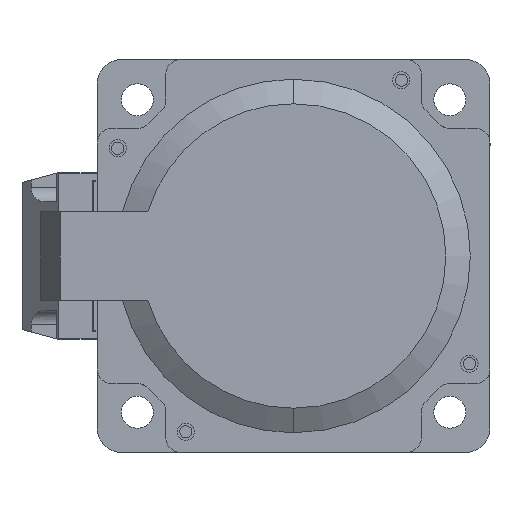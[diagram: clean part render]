
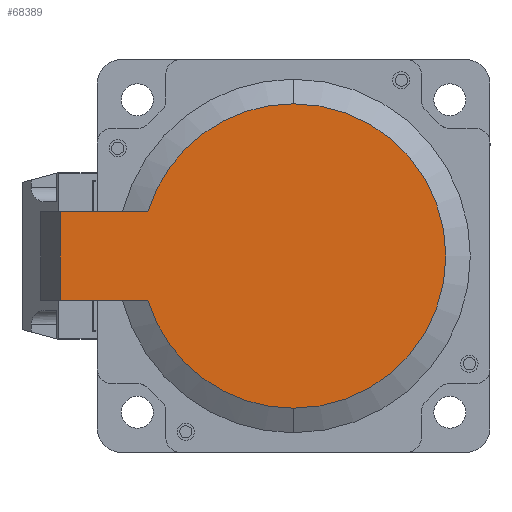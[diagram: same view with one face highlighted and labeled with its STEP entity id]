
A CAD part, left-side view. The second image highlights one B-rep face of the part: STEP entity #68389.
In plain terms, the highlighted planar face has unit normal (-1, 0, 0).
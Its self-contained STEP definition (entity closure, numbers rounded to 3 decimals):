
#814 = PLANE ( 'NONE',  #19556 ) ;
#2234 = ORIENTED_EDGE ( 'NONE', *, *, #37389, .F. ) ;
#2391 = CARTESIAN_POINT ( 'NONE',  ( 1063.931, 47.549, -9. ) ) ;
#2415 = AXIS2_PLACEMENT_3D ( 'NONE', #66256, #27387, #72749 ) ;
#2602 = AXIS2_PLACEMENT_3D ( 'NONE', #7819, #8676, #9770 ) ;
#4113 = CIRCLE ( 'NONE', #2602, 31. ) ;
#4387 = ORIENTED_EDGE ( 'NONE', *, *, #59607, .T. ) ;
#4547 = ORIENTED_EDGE ( 'NONE', *, *, #44367, .T. ) ;
#7819 = CARTESIAN_POINT ( 'NONE',  ( 1063.931, 0., 0. ) ) ;
#8676 = DIRECTION ( 'NONE',  ( -1., 0., 0. ) ) ;
#8720 = CARTESIAN_POINT ( 'NONE',  ( 1063.931, 0., 31. ) ) ;
#8850 = CIRCLE ( 'NONE', #2415, 31. ) ;
#9601 = ORIENTED_EDGE ( 'NONE', *, *, #54187, .T. ) ;
#9770 = DIRECTION ( 'NONE',  ( 0., 0., -1. ) ) ;
#10334 = CARTESIAN_POINT ( 'NONE',  ( 1063.931, 47.549, -9. ) ) ;
#10445 = VERTEX_POINT ( 'NONE', #8720 ) ;
#12189 = CARTESIAN_POINT ( 'NONE',  ( 1063.931, 29.665, 9. ) ) ;
#13537 = DIRECTION ( 'NONE',  ( 0., 0., 1. ) ) ;
#13879 = DIRECTION ( 'NONE',  ( 0., 0., -1. ) ) ;
#16889 = DIRECTION ( 'NONE',  ( 0., 1., 0. ) ) ;
#17423 = VECTOR ( 'NONE', #74322, 1000. ) ;
#19556 = AXIS2_PLACEMENT_3D ( 'NONE', #72842, #46227, #13879 ) ;
#21506 = LINE ( 'NONE', #35478, #17423 ) ;
#22087 = VERTEX_POINT ( 'NONE', #63378 ) ;
#25817 = ORIENTED_EDGE ( 'NONE', *, *, #75018, .F. ) ;
#26806 = VECTOR ( 'NONE', #16889, 1000. ) ;
#27387 = DIRECTION ( 'NONE',  ( -1., 0., 0. ) ) ;
#30928 = VERTEX_POINT ( 'NONE', #72312 ) ;
#34407 = EDGE_LOOP ( 'NONE', ( #25817, #81016, #4547, #4387, #9601, #2234 ) ) ;
#34903 = FACE_OUTER_BOUND ( 'NONE', #34407, .T. ) ;
#35478 = CARTESIAN_POINT ( 'NONE',  ( 1063.931, 47.549, 9. ) ) ;
#37389 = EDGE_CURVE ( 'NONE', #45867, #68776, #49138, .T. ) ;
#41273 = AXIS2_PLACEMENT_3D ( 'NONE', #69791, #70360, #76280 ) ;
#42548 = CIRCLE ( 'NONE', #41273, 31. ) ;
#44367 = EDGE_CURVE ( 'NONE', #30928, #10445, #8850, .T. ) ;
#45186 = VERTEX_POINT ( 'NONE', #12189 ) ;
#45867 = VERTEX_POINT ( 'NONE', #2391 ) ;
#46227 = DIRECTION ( 'NONE',  ( -1., 0., 0. ) ) ;
#49138 = LINE ( 'NONE', #71672, #50185 ) ;
#50185 = VECTOR ( 'NONE', #13537, 1000. ) ;
#54187 = EDGE_CURVE ( 'NONE', #45186, #68776, #21506, .T. ) ;
#59607 = EDGE_CURVE ( 'NONE', #10445, #45186, #4113, .T. ) ;
#60337 = EDGE_CURVE ( 'NONE', #22087, #30928, #42548, .T. ) ;
#63378 = CARTESIAN_POINT ( 'NONE',  ( 1063.931, 29.665, -9. ) ) ;
#66256 = CARTESIAN_POINT ( 'NONE',  ( 1063.931, 0., 0. ) ) ;
#68389 = ADVANCED_FACE ( 'NONE', ( #34903 ), #814, .T. ) ;
#68412 = LINE ( 'NONE', #10334, #26806 ) ;
#68776 = VERTEX_POINT ( 'NONE', #82711 ) ;
#69791 = CARTESIAN_POINT ( 'NONE',  ( 1063.931, 0., 0. ) ) ;
#70360 = DIRECTION ( 'NONE',  ( -1., 0., 0. ) ) ;
#71672 = CARTESIAN_POINT ( 'NONE',  ( 1063.931, 47.549, -9. ) ) ;
#72312 = CARTESIAN_POINT ( 'NONE',  ( 1063.931, 0., -31. ) ) ;
#72749 = DIRECTION ( 'NONE',  ( 0., 0., -1. ) ) ;
#72842 = CARTESIAN_POINT ( 'NONE',  ( 1063.931, 0., -31. ) ) ;
#74322 = DIRECTION ( 'NONE',  ( 0., 1., 0. ) ) ;
#75018 = EDGE_CURVE ( 'NONE', #22087, #45867, #68412, .T. ) ;
#76280 = DIRECTION ( 'NONE',  ( 0., 0., -1. ) ) ;
#81016 = ORIENTED_EDGE ( 'NONE', *, *, #60337, .T. ) ;
#82711 = CARTESIAN_POINT ( 'NONE',  ( 1063.931, 47.549, 9. ) ) ;
